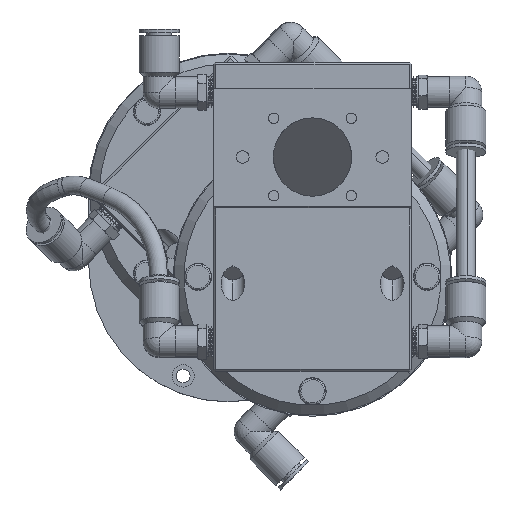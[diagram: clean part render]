
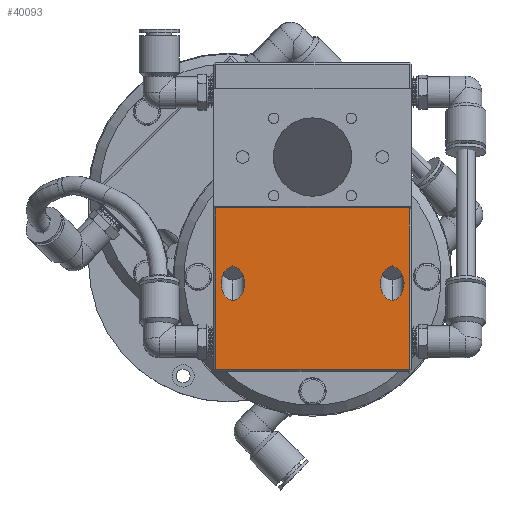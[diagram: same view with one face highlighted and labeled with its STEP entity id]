
A CAD part, top view. The second image highlights one B-rep face of the part: STEP entity #40093.
In plain terms, the highlighted planar face has unit normal (0, 0, 1).
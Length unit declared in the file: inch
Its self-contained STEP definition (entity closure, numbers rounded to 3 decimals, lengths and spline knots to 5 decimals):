
#37 = ORIENTED_EDGE ( 'NONE', *, *, #33867, .T. ) ;
#867 = VERTEX_POINT ( 'NONE', #25895 ) ;
#964 = VECTOR ( 'NONE', #24505, 39.37008 ) ;
#1638 = ORIENTED_EDGE ( 'NONE', *, *, #3788, .T. ) ;
#3788 = EDGE_CURVE ( 'NONE', #39586, #867, #16544, .T. ) ;
#3859 = EDGE_CURVE ( 'NONE', #867, #39586, #17797, .T. ) ;
#3890 = CARTESIAN_POINT ( 'NONE',  ( 0.50005, 0.12199, -0.01926 ) ) ;
#7678 = CARTESIAN_POINT ( 'NONE',  ( 2.50005, 0.12229, -0.01926 ) ) ;
#7690 = CARTESIAN_POINT ( 'NONE',  ( 2.50005, 0.12229, -0.01926 ) ) ;
#7726 = CARTESIAN_POINT ( 'NONE',  ( 0.50005, 0.12199, -0.01926 ) ) ;
#8887 = CARTESIAN_POINT ( 'NONE',  ( 0.50005, 0.12199, -0.01926 ) ) ;
#9056 = DIRECTION ( 'NONE',  ( 0., 0., -1. ) ) ;
#9518 = DIRECTION ( 'NONE',  ( 1., 0., 0. ) ) ;
#9987 = EDGE_CURVE ( 'NONE', #48877, #50252, #40690, .T. ) ;
#10589 = CARTESIAN_POINT ( 'NONE',  ( 2.79605, 0.12234, -0.01926 ) ) ;
#11521 = CARTESIAN_POINT ( 'NONE',  ( 2.71494, 0.86093, -0.01926 ) ) ;
#12300 =( BOUNDED_CURVE ( )  B_SPLINE_CURVE ( 3, ( #26755, #10589, #35461, #23049 ),
 .UNSPECIFIED., .F., .F. ) 
 B_SPLINE_CURVE_WITH_KNOTS ( ( 4, 4 ),
 ( 0., 3.14159 ),
 .UNSPECIFIED. ) 
 CURVE ( )  GEOMETRIC_REPRESENTATION_ITEM ( )  RATIONAL_B_SPLINE_CURVE ( ( 1., 0.333, 0.333, 1. ) ) 
 REPRESENTATION_ITEM ( '' )  );
#13131 = CARTESIAN_POINT ( 'NONE',  ( 0.20405, 0.12195, -0.01926 ) ) ;
#14875 = CARTESIAN_POINT ( 'NONE',  ( 2.71494, 0.86093, -0.01926 ) ) ;
#15580 = CARTESIAN_POINT ( 'NONE',  ( 2.20405, 0.12225, -0.01926 ) ) ;
#16094 = CARTESIAN_POINT ( 'NONE',  ( 2.50011, -0.29632, -0.01926 ) ) ;
#16544 =( BOUNDED_CURVE ( )  B_SPLINE_CURVE ( 3, ( #3890, #32054, #33572, #49668 ),
 .UNSPECIFIED., .F., .F. ) 
 B_SPLINE_CURVE_WITH_KNOTS ( ( 4, 4 ),
 ( 0., 3.14159 ),
 .UNSPECIFIED. ) 
 CURVE ( )  GEOMETRIC_REPRESENTATION_ITEM ( )  RATIONAL_B_SPLINE_CURVE ( ( 1., 0.333, 0.333, 1. ) ) 
 REPRESENTATION_ITEM ( '' )  );
#17649 = DIRECTION ( 'NONE',  ( 0., -1., 0. ) ) ;
#17797 =( BOUNDED_CURVE ( )  B_SPLINE_CURVE ( 3, ( #21539, #49871, #13131, #8887 ),
 .UNSPECIFIED., .F., .F. ) 
 B_SPLINE_CURVE_WITH_KNOTS ( ( 4, 4 ),
 ( 3.14159, 6.28319 ),
 .UNSPECIFIED. ) 
 CURVE ( )  GEOMETRIC_REPRESENTATION_ITEM ( )  RATIONAL_B_SPLINE_CURVE ( ( 1., 0.333, 0.333, 1. ) ) 
 REPRESENTATION_ITEM ( '' )  );
#17827 = CARTESIAN_POINT ( 'NONE',  ( 0.28524, -1.19043, -0.01926 ) ) ;
#19140 = LINE ( 'NONE', #14875, #50147 ) ;
#19282 = EDGE_LOOP ( 'NONE', ( #41456, #37 ) ) ;
#19292 = LINE ( 'NONE', #37408, #21818 ) ;
#19655 = FACE_BOUND ( 'NONE', #21870, .T. ) ;
#21539 = CARTESIAN_POINT ( 'NONE',  ( 0.50011, -0.29661, -0.01926 ) ) ;
#21818 = VECTOR ( 'NONE', #9518, 39.37008 ) ;
#21870 = EDGE_LOOP ( 'NONE', ( #51110, #1638 ) ) ;
#22105 = ORIENTED_EDGE ( 'NONE', *, *, #23496, .T. ) ;
#23049 = CARTESIAN_POINT ( 'NONE',  ( 2.50011, -0.29632, -0.01926 ) ) ;
#23496 = EDGE_CURVE ( 'NONE', #48877, #32673, #26954, .T. ) ;
#24505 = DIRECTION ( 'NONE',  ( 1., 0., 0. ) ) ;
#25329 = ORIENTED_EDGE ( 'NONE', *, *, #39185, .T. ) ;
#25895 = CARTESIAN_POINT ( 'NONE',  ( 0.50011, -0.29661, -0.01926 ) ) ;
#26236 = VERTEX_POINT ( 'NONE', #30435 ) ;
#26755 = CARTESIAN_POINT ( 'NONE',  ( 2.50005, 0.12229, -0.01926 ) ) ;
#26954 = LINE ( 'NONE', #17827, #32044 ) ;
#28304 =( BOUNDED_CURVE ( )  B_SPLINE_CURVE ( 3, ( #16094, #47940, #15580, #7690 ),
 .UNSPECIFIED., .F., .F. ) 
 B_SPLINE_CURVE_WITH_KNOTS ( ( 4, 4 ),
 ( 3.14159, 6.28319 ),
 .UNSPECIFIED. ) 
 CURVE ( )  GEOMETRIC_REPRESENTATION_ITEM ( )  RATIONAL_B_SPLINE_CURVE ( ( 1., 0.333, 0.333, 1. ) ) 
 REPRESENTATION_ITEM ( '' )  );
#29757 = EDGE_LOOP ( 'NONE', ( #49813, #25329, #31104, #22105 ) ) ;
#30390 = FACE_BOUND ( 'NONE', #19282, .T. ) ;
#30435 = CARTESIAN_POINT ( 'NONE',  ( 2.50011, -0.29632, -0.01926 ) ) ;
#31104 = ORIENTED_EDGE ( 'NONE', *, *, #9987, .F. ) ;
#32044 = VECTOR ( 'NONE', #17649, 39.37008 ) ;
#32054 = CARTESIAN_POINT ( 'NONE',  ( 0.79605, 0.12204, -0.01926 ) ) ;
#32198 = VERTEX_POINT ( 'NONE', #7678 ) ;
#32673 = VERTEX_POINT ( 'NONE', #40076 ) ;
#33572 = CARTESIAN_POINT ( 'NONE',  ( 0.79611, -0.29657, -0.01926 ) ) ;
#33867 = EDGE_CURVE ( 'NONE', #32198, #26236, #12300, .T. ) ;
#35461 = CARTESIAN_POINT ( 'NONE',  ( 2.79611, -0.29627, -0.01926 ) ) ;
#35598 = CARTESIAN_POINT ( 'NONE',  ( 2.71524, -1.16507, -0.01926 ) ) ;
#36387 = VERTEX_POINT ( 'NONE', #35598 ) ;
#36880 = AXIS2_PLACEMENT_3D ( 'NONE', #41893, #9056, #37112 ) ;
#37112 = DIRECTION ( 'NONE',  ( -1., 0., 0. ) ) ;
#37408 = CARTESIAN_POINT ( 'NONE',  ( 0.26024, -1.16543, -0.01926 ) ) ;
#39185 = EDGE_CURVE ( 'NONE', #36387, #50252, #19140, .T. ) ;
#39586 = VERTEX_POINT ( 'NONE', #7726 ) ;
#40076 = CARTESIAN_POINT ( 'NONE',  ( 0.28524, -1.16543, -0.01926 ) ) ;
#40093 = ADVANCED_FACE ( 'NONE', ( #19655, #30390, #44959 ), #45592, .F. ) ;
#40690 = LINE ( 'NONE', #44677, #964 ) ;
#41456 = ORIENTED_EDGE ( 'NONE', *, *, #43893, .T. ) ;
#41893 = CARTESIAN_POINT ( 'NONE',  ( 0.26024, -1.19043, -0.01926 ) ) ;
#43852 = DIRECTION ( 'NONE',  ( 0., 1., 0. ) ) ;
#43893 = EDGE_CURVE ( 'NONE', #26236, #32198, #28304, .T. ) ;
#44677 = CARTESIAN_POINT ( 'NONE',  ( 0.25994, 0.86057, -0.01926 ) ) ;
#44959 = FACE_OUTER_BOUND ( 'NONE', #29757, .T. ) ;
#45423 = EDGE_CURVE ( 'NONE', #32673, #36387, #19292, .T. ) ;
#45592 = PLANE ( 'NONE',  #36880 ) ;
#47940 = CARTESIAN_POINT ( 'NONE',  ( 2.20411, -0.29636, -0.01926 ) ) ;
#48057 = CARTESIAN_POINT ( 'NONE',  ( 0.28494, 0.86057, -0.01926 ) ) ;
#48877 = VERTEX_POINT ( 'NONE', #48057 ) ;
#49668 = CARTESIAN_POINT ( 'NONE',  ( 0.50011, -0.29661, -0.01926 ) ) ;
#49813 = ORIENTED_EDGE ( 'NONE', *, *, #45423, .T. ) ;
#49871 = CARTESIAN_POINT ( 'NONE',  ( 0.20411, -0.29666, -0.01926 ) ) ;
#50147 = VECTOR ( 'NONE', #43852, 39.37008 ) ;
#50252 = VERTEX_POINT ( 'NONE', #11521 ) ;
#51110 = ORIENTED_EDGE ( 'NONE', *, *, #3859, .T. ) ;
